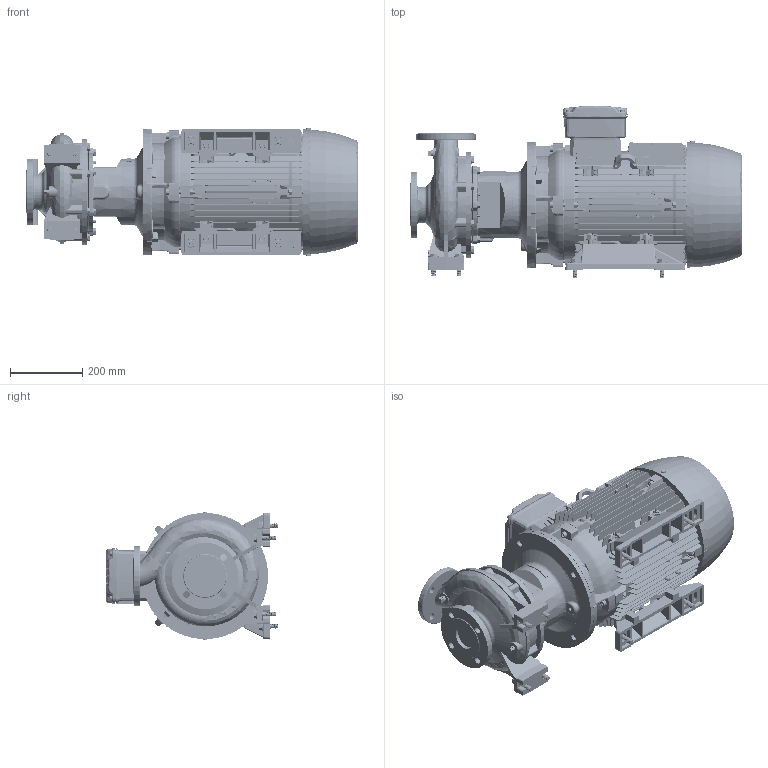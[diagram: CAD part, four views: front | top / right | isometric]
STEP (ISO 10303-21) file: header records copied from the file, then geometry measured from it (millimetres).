
FILE_DESCRIPTION (( 'STEP AP214' ), '1' );
FILE_NAME ('GSD2 50-200_22.0_(180ML)_W21.STEP', '2026-07-07T04:13:39', ( '' ), ( '' ), 'SwSTEP 2.0', 'SolidWorks 2024', '' );
FILE_SCHEMA (( 'AUTOMOTIVE_DESIGN' ));
Length unit declared in the file: millimetre
Products named in the file (9): CGS11-5301_2_3_4_5_CGS11-5301; Parametric bolt and washer_SFT-A309B; Parametric bolt_SFT-A309B; Parametric bolt_SFT-A305B; 50-200-180M_L; 180M_L ALIE3_W21T_B35; Parametric Flat Washer_M12; GSD2  50-200_22.0_(180ML)_W21; Parametric bolt and washer_SFT-A305B
Assembly tree (16 placements, depth 3):
  GSD2  50-200_22.0_(180ML)_W21
    50-200-180M_L
    CGS11-5301_2_3_4_5_CGS11-5301  x2
    Parametric bolt and washer_SFT-A309B  x4
      Parametric bolt_SFT-A309B
      Parametric Flat Washer_M12
    180M_L ALIE3_W21T_B35
    Parametric bolt and washer_SFT-A305B  x4
      Parametric bolt_SFT-A305B
      Parametric Flat Washer_M12
Bounding box: 919.8 x 477 x 356 mm (x, y, z)
Volume: 58528831 mm3; surface area: 3218509.8 mm2
Topology: 53 solids, 53 shells, 6479 faces, 16915 edges, 11011 vertices
Faces by surface type: plane 3888, cylinder 1230, cone 615, bspline 431, torus 299, sphere 16
Entity records: 221636 total; most frequent: CARTESIAN_POINT 78019, ORIENTED_EDGE 31656, DIRECTION 26725, EDGE_CURVE 15828, VERTEX_POINT 10311, VECTOR 9901, LINE 9901, AXIS2_PLACEMENT_3D 8412
